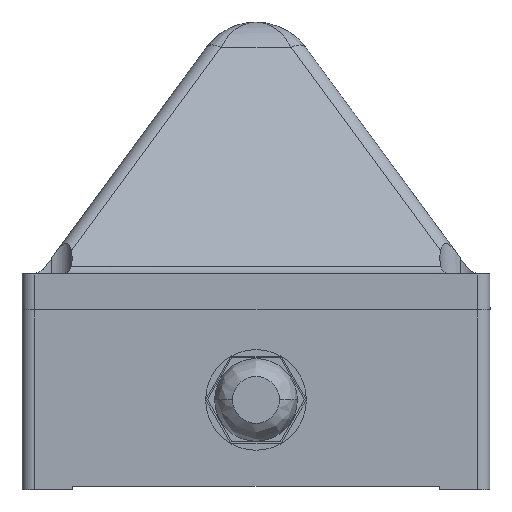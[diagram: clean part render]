
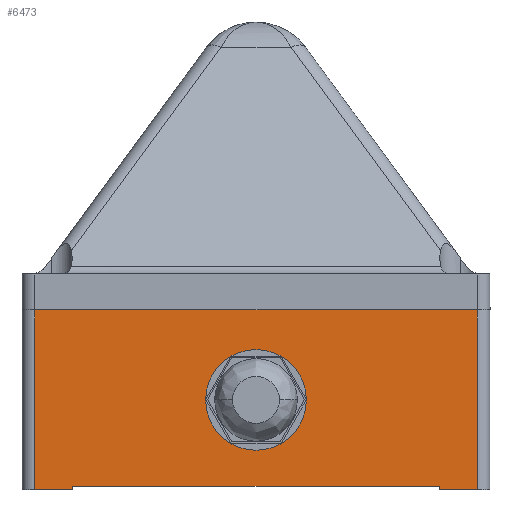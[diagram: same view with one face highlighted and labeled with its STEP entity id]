
A CAD part, front view. The second image highlights one B-rep face of the part: STEP entity #6473.
In plain terms, the highlighted planar face has unit normal (0, -1, 0).
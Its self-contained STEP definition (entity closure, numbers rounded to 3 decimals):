
#1817 = DIRECTION ( 'NONE',  ( 0., 0., 1. ) ) ;
#1818 = DIRECTION ( 'NONE',  ( 0., 1., 0. ) ) ;
#1819 = AXIS2_PLACEMENT_3D ( 'NONE', #1825, #1818, #1817 ) ;
#1820 = CIRCLE ( 'NONE', #1819, 10.75 ) ;
#1825 = CARTESIAN_POINT ( 'NONE',  ( 0., -52.903, -40. ) ) ;
#2178 = DIRECTION ( 'NONE',  ( 0., 0., 1. ) ) ;
#2179 = VECTOR ( 'NONE', #2178, 1000. ) ;
#2180 = CARTESIAN_POINT ( 'NONE',  ( 61.545, -52.903, -15. ) ) ;
#2181 = LINE ( 'NONE', #2180, #2179 ) ;
#2182 = CARTESIAN_POINT ( 'NONE',  ( 61.545, -52.903, -65. ) ) ;
#2214 = CARTESIAN_POINT ( 'NONE',  ( -10.75, -52.903, -40. ) ) ;
#2424 = DIRECTION ( 'NONE',  ( 0., 0., 1. ) ) ;
#2425 = DIRECTION ( 'NONE',  ( 0., 1., 0. ) ) ;
#2426 = CARTESIAN_POINT ( 'NONE',  ( 0., -52.903, -40. ) ) ;
#2427 = AXIS2_PLACEMENT_3D ( 'NONE', #2426, #2425, #2424 ) ;
#2428 = CIRCLE ( 'NONE', #2427, 10.75 ) ;
#2560 = CARTESIAN_POINT ( 'NONE',  ( 61.545, -52.903, -15. ) ) ;
#2585 = CARTESIAN_POINT ( 'NONE',  ( 50.927, -52.903, -65. ) ) ;
#2664 = DIRECTION ( 'NONE',  ( 1., 0., 0. ) ) ;
#2665 = VECTOR ( 'NONE', #2664, 1000. ) ;
#2666 = CARTESIAN_POINT ( 'NONE',  ( -61.545, -52.903, -65. ) ) ;
#2667 = LINE ( 'NONE', #2666, #2665 ) ;
#5697 = EDGE_CURVE ( 'NONE', #6042, #9816, #1820, .T. ) ;
#6004 = VERTEX_POINT ( 'NONE', #2182 ) ;
#6012 = EDGE_CURVE ( 'NONE', #6004, #6172, #2181, .T. ) ;
#6042 = VERTEX_POINT ( 'NONE', #2214 ) ;
#6107 = EDGE_CURVE ( 'NONE', #9817, #6042, #2428, .T. ) ;
#6120 = EDGE_CURVE ( 'NONE', #6165, #6004, #2667, .T. ) ;
#6165 = VERTEX_POINT ( 'NONE', #2585 ) ;
#6172 = VERTEX_POINT ( 'NONE', #2560 ) ;
#6299 = VERTEX_POINT ( 'NONE', #10045 ) ;
#6314 = EDGE_CURVE ( 'NONE', #6299, #6347, #10016, .T. ) ;
#6327 = ORIENTED_EDGE ( 'NONE', *, *, #6107, .T. ) ;
#6330 = ORIENTED_EDGE ( 'NONE', *, *, #5697, .T. ) ;
#6335 = ORIENTED_EDGE ( 'NONE', *, *, #9815, .T. ) ;
#6339 = ORIENTED_EDGE ( 'NONE', *, *, #6341, .F. ) ;
#6340 = EDGE_CURVE ( 'NONE', #6381, #6516, #9918, .T. ) ;
#6341 = EDGE_CURVE ( 'NONE', #6476, #6516, #9914, .T. ) ;
#6342 = ORIENTED_EDGE ( 'NONE', *, *, #6340, .T. ) ;
#6347 = VERTEX_POINT ( 'NONE', #10159 ) ;
#6361 = EDGE_LOOP ( 'NONE', ( #6472, #6522, #6342, #6339, #6517, #6518, #6519, #6520 ) ) ;
#6381 = VERTEX_POINT ( 'NONE', #10087 ) ;
#6384 = EDGE_CURVE ( 'NONE', #6172, #6299, #10085, .T. ) ;
#6386 = EDGE_CURVE ( 'NONE', #6347, #6381, #10081, .T. ) ;
#6472 = ORIENTED_EDGE ( 'NONE', *, *, #6314, .T. ) ;
#6473 = ADVANCED_FACE ( 'NONE', ( #10283, #10282 ), #10192, .T. ) ;
#6476 = VERTEX_POINT ( 'NONE', #10374 ) ;
#6478 = EDGE_CURVE ( 'NONE', #6476, #6165, #10373, .T. ) ;
#6516 = VERTEX_POINT ( 'NONE', #10216 ) ;
#6517 = ORIENTED_EDGE ( 'NONE', *, *, #6478, .T. ) ;
#6518 = ORIENTED_EDGE ( 'NONE', *, *, #6120, .T. ) ;
#6519 = ORIENTED_EDGE ( 'NONE', *, *, #6012, .T. ) ;
#6520 = ORIENTED_EDGE ( 'NONE', *, *, #6384, .T. ) ;
#6521 = EDGE_LOOP ( 'NONE', ( #6327, #6330, #6335 ) ) ;
#6522 = ORIENTED_EDGE ( 'NONE', *, *, #6386, .T. ) ;
#9815 = EDGE_CURVE ( 'NONE', #9816, #9817, #10530, .T. ) ;
#9816 = VERTEX_POINT ( 'NONE', #10525 ) ;
#9817 = VERTEX_POINT ( 'NONE', #10524 ) ;
#9911 = DIRECTION ( 'NONE',  ( -1., 0., 0. ) ) ;
#9912 = VECTOR ( 'NONE', #9911, 1000. ) ;
#9913 = CARTESIAN_POINT ( 'NONE',  ( -50.15, -52.903, -64. ) ) ;
#9914 = LINE ( 'NONE', #9913, #9912 ) ;
#9915 = DIRECTION ( 'NONE',  ( 0., 0., 1. ) ) ;
#9916 = VECTOR ( 'NONE', #9915, 1000. ) ;
#9917 = CARTESIAN_POINT ( 'NONE',  ( -50.927, -52.903, -65. ) ) ;
#9918 = LINE ( 'NONE', #9917, #9916 ) ;
#10013 = DIRECTION ( 'NONE',  ( 0., 0., -1. ) ) ;
#10014 = VECTOR ( 'NONE', #10013, 1000. ) ;
#10015 = CARTESIAN_POINT ( 'NONE',  ( -61.545, -52.903, -15. ) ) ;
#10016 = LINE ( 'NONE', #10015, #10014 ) ;
#10045 = CARTESIAN_POINT ( 'NONE',  ( -61.545, -52.903, -15. ) ) ;
#10078 = DIRECTION ( 'NONE',  ( 1., 0., 0. ) ) ;
#10079 = VECTOR ( 'NONE', #10078, 1000. ) ;
#10080 = CARTESIAN_POINT ( 'NONE',  ( -61.545, -52.903, -65. ) ) ;
#10081 = LINE ( 'NONE', #10080, #10079 ) ;
#10082 = DIRECTION ( 'NONE',  ( -1., 0., 0. ) ) ;
#10083 = VECTOR ( 'NONE', #10082, 1000. ) ;
#10084 = CARTESIAN_POINT ( 'NONE',  ( -61.545, -52.903, -15. ) ) ;
#10085 = LINE ( 'NONE', #10084, #10083 ) ;
#10087 = CARTESIAN_POINT ( 'NONE',  ( -50.927, -52.903, -65. ) ) ;
#10159 = CARTESIAN_POINT ( 'NONE',  ( -61.545, -52.903, -65. ) ) ;
#10188 = DIRECTION ( 'NONE',  ( 1., 0., 0. ) ) ;
#10189 = DIRECTION ( 'NONE',  ( 0., -1., 0. ) ) ;
#10190 = CARTESIAN_POINT ( 'NONE',  ( -61.545, -52.903, -15. ) ) ;
#10191 = AXIS2_PLACEMENT_3D ( 'NONE', #10190, #10189, #10188 ) ;
#10192 = PLANE ( 'NONE',  #10191 ) ;
#10216 = CARTESIAN_POINT ( 'NONE',  ( -50.927, -52.903, -64. ) ) ;
#10282 = FACE_BOUND ( 'NONE', #6521, .T. ) ;
#10283 = FACE_OUTER_BOUND ( 'NONE', #6361, .T. ) ;
#10370 = DIRECTION ( 'NONE',  ( 0., 0., -1. ) ) ;
#10371 = VECTOR ( 'NONE', #10370, 1000. ) ;
#10372 = CARTESIAN_POINT ( 'NONE',  ( 50.927, -52.903, -15. ) ) ;
#10373 = LINE ( 'NONE', #10372, #10371 ) ;
#10374 = CARTESIAN_POINT ( 'NONE',  ( 50.927, -52.903, -64. ) ) ;
#10524 = CARTESIAN_POINT ( 'NONE',  ( 10.75, -52.903, -40. ) ) ;
#10525 = CARTESIAN_POINT ( 'NONE',  ( 0., -52.903, -29.25 ) ) ;
#10526 = DIRECTION ( 'NONE',  ( 0., 0., 1. ) ) ;
#10527 = DIRECTION ( 'NONE',  ( 0., 1., 0. ) ) ;
#10528 = CARTESIAN_POINT ( 'NONE',  ( 0., -52.903, -40. ) ) ;
#10529 = AXIS2_PLACEMENT_3D ( 'NONE', #10528, #10527, #10526 ) ;
#10530 = CIRCLE ( 'NONE', #10529, 10.75 ) ;
